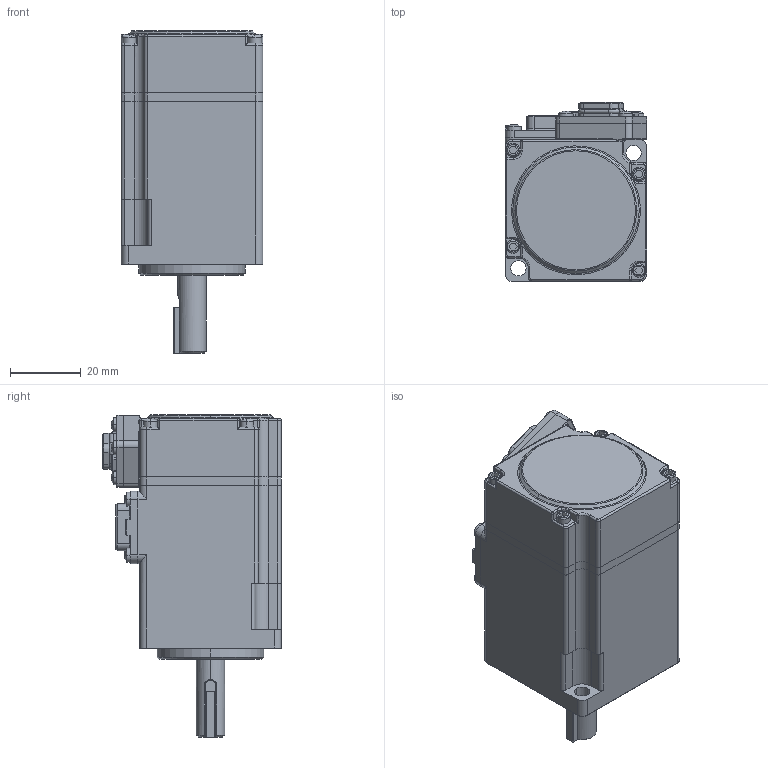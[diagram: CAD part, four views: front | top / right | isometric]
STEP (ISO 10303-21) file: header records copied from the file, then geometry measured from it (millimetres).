
FILE_DESCRIPTION((''),'2;1');
FILE_NAME('40-100W0001_ASM','2025-04-02T08:41:57',('0107316'),(''),'CREO PARAMETRIC BY PTC INC, 2019080','CREO PARAMETRIC BY PTC INC, 2019080','');
FILE_SCHEMA(('CONFIG_CONTROL_DESIGN'));
Products named in the file (29): 40-100W_AF00; SC-MC6P-AP2G-041_AF0; 40-100W_AF0000_ASM; 40-100W_AF0000; 40-100W_AF10; 40-100W_AF20; 40-100W_AF30; 40-100W_AF40; 40-100W_AF50; 40-100W_AF60; 40-100W_AF70; 40-100W_AF80; 40-100W_AF90; _699_AF; _607_AF; 40_AF00; 40-100W-_AF00001_ASM; 40000; SC-MC7P-A60G-18; 000; ISO7045-M2X4-4_8_AF0; ISO7045-M2X4-4_8_AF1; ISO7045-M2X4-4_8_AF2; ISO7045-M2X4-4_8_AF3; ISO7045-M2X5-4_8; DIN912-M2X16-8_8; 50066-00123-4000; 40-100W0001_ASM
Assembly tree (34 placements, depth 3):
  40-100W0001_ASM
    40-100W_AF0000_ASM
      40-100W_AF00
      SC-MC6P-AP2G-041_AF0
    40-100W-_AF00001_ASM
      40-100W_AF0000
      40-100W_AF00
      40-100W_AF10
      40-100W_AF20
      40-100W_AF30
      40-100W_AF40
      40-100W_AF50
      40-100W_AF60
      40-100W_AF70
      40-100W_AF80
      40-100W_AF90
      _699_AF
      _607_AF
      40_AF00
    40000
    SC-MC7P-A60G-18
    000
    ISO7045-M2X4-4_8_AF0
    ISO7045-M2X4-4_8_AF1
    ISO7045-M2X4-4_8_AF2
    ISO7045-M2X4-4_8_AF3
    ISO7045-M2X5-4_8  x4
    DIN912-M2X16-8_8  x4
    50066-00123-4000
Bounding box: 40 x 50.45 x 91 mm (x, y, z)
Volume: 43687.6 mm3; surface area: 38013.2 mm2
Topology: 23 solids, 38 shells, 2324 faces, 6038 edges, 3869 vertices
Faces by surface type: plane 1224, cylinder 729, torus 146, cone 122, extrusion 49, sphere 36, bspline 18
Entity records: 69998 total; most frequent: CARTESIAN_POINT 14340, DIRECTION 11738, ORIENTED_EDGE 11325, EDGE_CURVE 5710, AXIS2_PLACEMENT_3D 4034, VERTEX_POINT 3671, VECTOR 3670, LINE 3621
